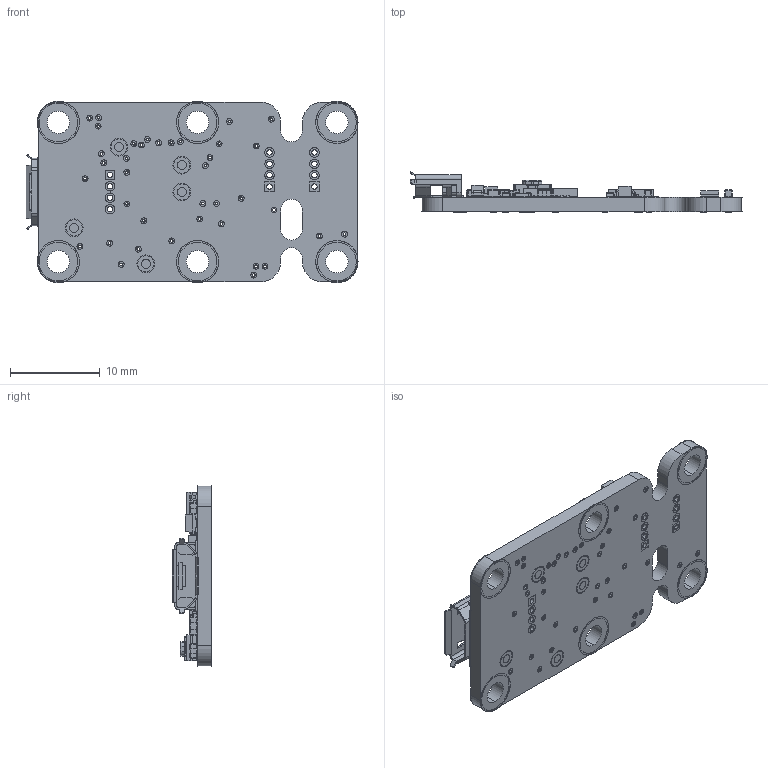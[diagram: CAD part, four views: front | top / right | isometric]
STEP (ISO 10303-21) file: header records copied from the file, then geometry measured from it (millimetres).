
FILE_DESCRIPTION (( 'STEP AP214' ), '1' );
FILE_NAME ('yoctolight2.STEP', '2013-08-26T07:31:20', ( 'martinm' ), ( '' ), 'SwSTEP 2.0', 'SolidWorks 2008', '' );
FILE_SCHEMA (( 'AUTOMOTIVE_DESIGN' ));
Length unit declared in the file: millimetre
Products named in the file (29): U1; USB1; YLED; reg2; sens1; sensor1; yoctolight2; SW1; PCB; C2; C9; C10; C16; C18; C19; FLASH1; PVSS; R1; R2; R3; R4; R5; R7; R8; R9; R10; R11; R12; REG1
Assembly tree (35 placements, depth 2):
  yoctolight2
    C18  x3
    FLASH1
    R5
    reg2
    R9
    R4
    C10
    R7  x2
    C9  x6
    R12
    R1
    SW1
    R11
    sensor1
    PCB
    R3
    USB1
    R10
    C16
    U1
    C2
    R2
    C19
    R8
    REG1
    sens1
    YLED
  PVSS
Bounding box: 36.95 x 4.45 x 20.2 mm (x, y, z)
Volume: 1169.2 mm3; surface area: 2446 mm2
Topology: 50 solids, 50 shells, 5162 faces, 13253 edges, 8570 vertices
Faces by surface type: plane 3199, cylinder 1288, bspline 564, sphere 104, torus 7
Entity records: 219367 total; most frequent: CARTESIAN_POINT 58609, ORIENTED_EDGE 24604, DIRECTION 22051, EDGE_CURVE 12302, LINE 8797, VECTOR 8797, VERTEX_POINT 8094, AXIS2_PLACEMENT_3D 6627
